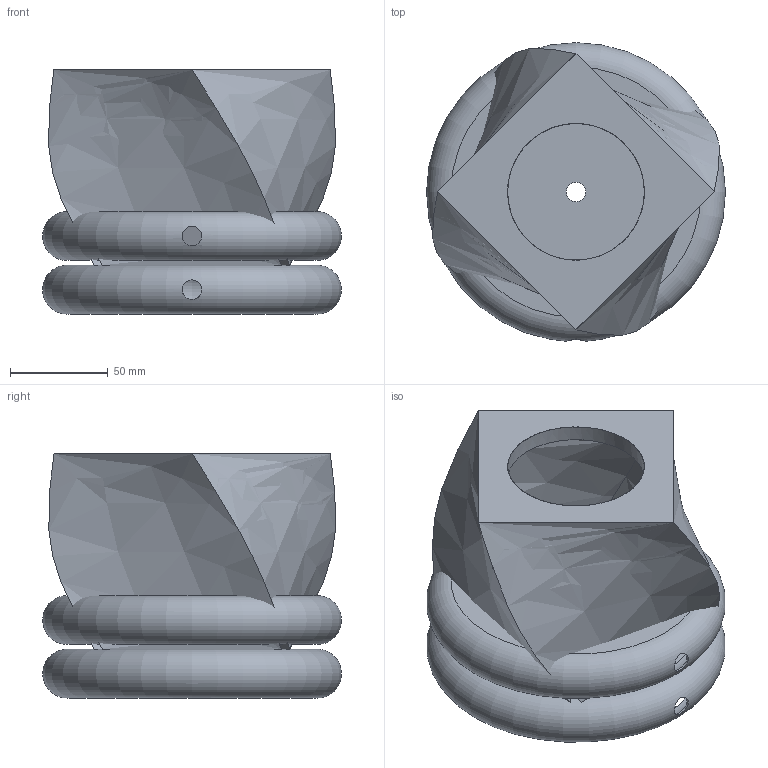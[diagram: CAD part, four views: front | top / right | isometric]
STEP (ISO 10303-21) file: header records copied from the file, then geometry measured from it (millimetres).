
FILE_DESCRIPTION( ( 'STEP AP203' ), '1' );
FILE_NAME( '//srvbf/BF Disegni/ARRIGHI FRANCESCA/AUREA/AUREA-Q-L Lumetto 3D.stp', '2020-10-16T06:24:59', ( ' ' ), ( ' ' ), 'XStep 1.0', ' ', ' ' );
FILE_SCHEMA( ( 'CONFIG_CONTROL_DESIGN) ( )' ) );
Length unit declared in the file: metre
Products named in the file (3): Assem1; 1; 2
Bounding box: 152.98 x 152.82 x 125 mm (x, y, z)
Volume: 746007 mm3; surface area: 304388.7 mm2
Topology: 4 solids, 4 shells, 76 faces, 194 edges, 130 vertices
Faces by surface type: plane 28, extrusion 16, cylinder 12, bspline 8, offset 8, torus 4
Full cylindrical faces by diameter (mm): 5 x4, 10 x4, 70 x2, 128 x2
Entity records: 1782 total; most frequent: CARTESIAN_POINT 867, ORIENTED_EDGE 172, DIRECTION 106, EDGE_CURVE 86, VERTEX_POINT 62, B_SPLINE_CURVE_WITH_KNOTS 58, EDGE_LOOP 54, FACE_OUTER_BOUND 46
